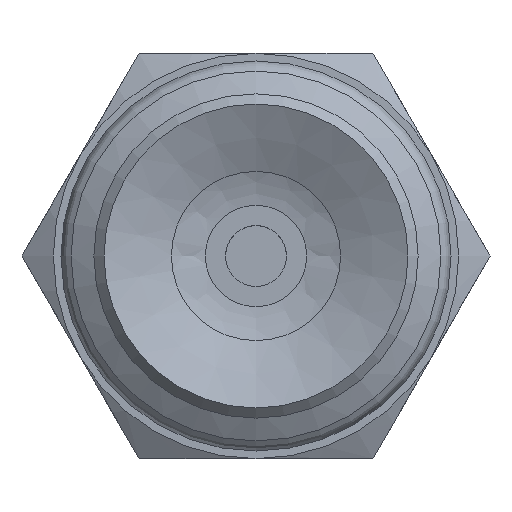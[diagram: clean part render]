
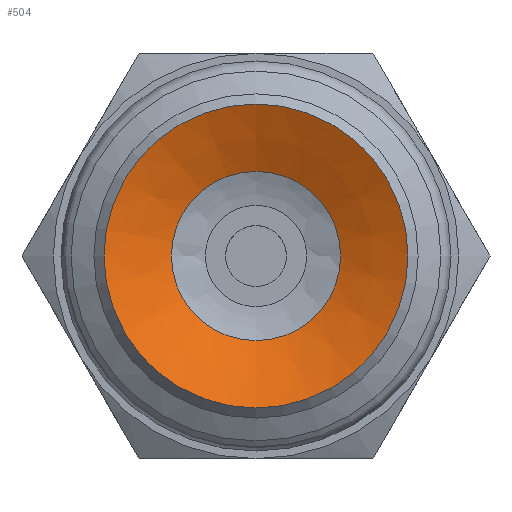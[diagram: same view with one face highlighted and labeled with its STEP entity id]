
A CAD part, front view. The second image highlights one B-rep face of the part: STEP entity #504.
In plain terms, the highlighted conical face has half-angle 64.998 degrees and reference radius 1.285 mm.
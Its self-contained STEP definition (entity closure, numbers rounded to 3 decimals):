
#504=ADVANCED_FACE('',(#770,#771),#772,.F.);
#770=FACE_BOUND('',#1071,.T.);
#771=FACE_OUTER_BOUND('',#1072,.T.);
#772=CONICAL_SURFACE('',#1073,1.285,1.134);
#1071=EDGE_LOOP('',(#1768));
#1072=EDGE_LOOP('',(#1769));
#1073=AXIS2_PLACEMENT_3D('',#1770,#1771,#1772);
#1768=ORIENTED_EDGE('',*,*,#1961,.T.);
#1769=ORIENTED_EDGE('',*,*,#1960,.T.);
#1770=CARTESIAN_POINT('',(0.0,0.8,0.0));
#1771=DIRECTION('',(-0.0,-1.0,0.));
#1772=DIRECTION('',(0.0,0.,-1.0));
#1960=EDGE_CURVE('',#2278,#2278,#2279,.T.);
#1961=EDGE_CURVE('',#2280,#2280,#2281,.T.);
#2278=VERTEX_POINT('',#2972);
#2279=CIRCLE('',#2973,3.);
#2280=VERTEX_POINT('',#2974);
#2281=CIRCLE('',#2975,1.67);
#2972=CARTESIAN_POINT('',(0.0,0.,-3.));
#2973=AXIS2_PLACEMENT_3D('',#3263,#3264,#3265);
#2974=CARTESIAN_POINT('',(0.0,0.62,-1.67));
#2975=AXIS2_PLACEMENT_3D('',#3266,#3267,#3268);
#3263=CARTESIAN_POINT('',(0.0,0.0,0.0));
#3264=DIRECTION('',(0.0,-1.0,0.));
#3265=DIRECTION('',(0.0,0.,-1.0));
#3266=CARTESIAN_POINT('',(0.0,0.62,0.0));
#3267=DIRECTION('',(0.0,1.0,0.));
#3268=DIRECTION('',(0.0,0.,-1.0));
